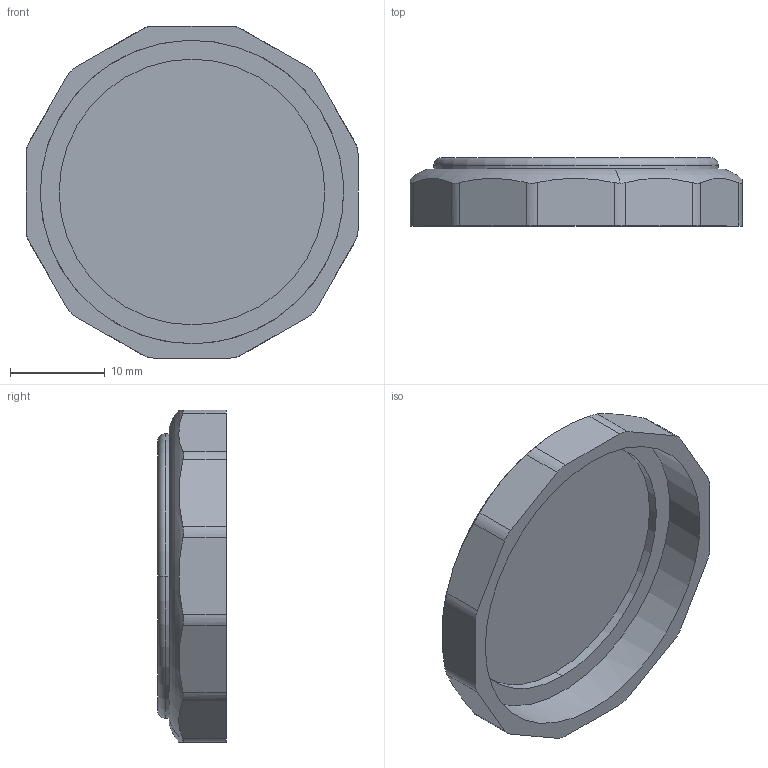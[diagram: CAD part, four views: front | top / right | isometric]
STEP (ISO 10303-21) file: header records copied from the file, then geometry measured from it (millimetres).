
FILE_DESCRIPTION (( 'STEP AP203' ), '1' );
FILE_NAME ('DiGi Module XT3 & 6 - Cover - Flat.STEP', '2025-08-06T11:24:42', ( '' ), ( '' ), 'SwSTEP 2.0', 'SolidWorks 2025', '' );
FILE_SCHEMA (( 'CONFIG_CONTROL_DESIGN' ));
Length unit declared in the file: millimetre
Products named in the file (1): DiGi Module XT3 & 6 - Cover - Flat
Bounding box: 35 x 7.2 x 35 mm (x, y, z)
Volume: 2397.4 mm3; surface area: 3165.6 mm2
Topology: 1 solids, 1 shells, 38 faces, 99 edges, 66 vertices
Faces by surface type: plane 17, cylinder 17, torus 4
Full cylindrical faces by diameter (mm): 32 x1
Entity records: 1485 total; most frequent: CARTESIAN_POINT 504, ORIENTED_EDGE 194, DIRECTION 178, EDGE_CURVE 97, AXIS2_PLACEMENT_3D 69, VERTEX_POINT 65, EDGE_LOOP 42, LINE 40
